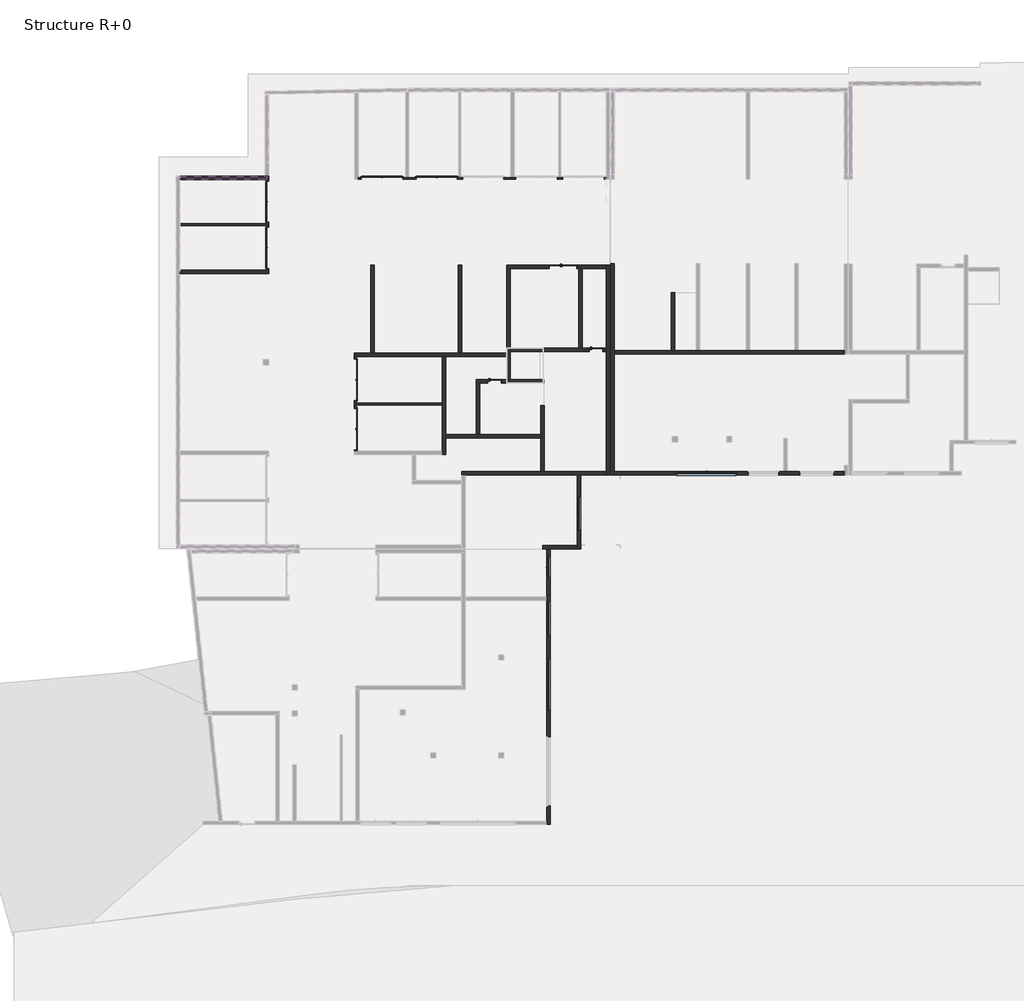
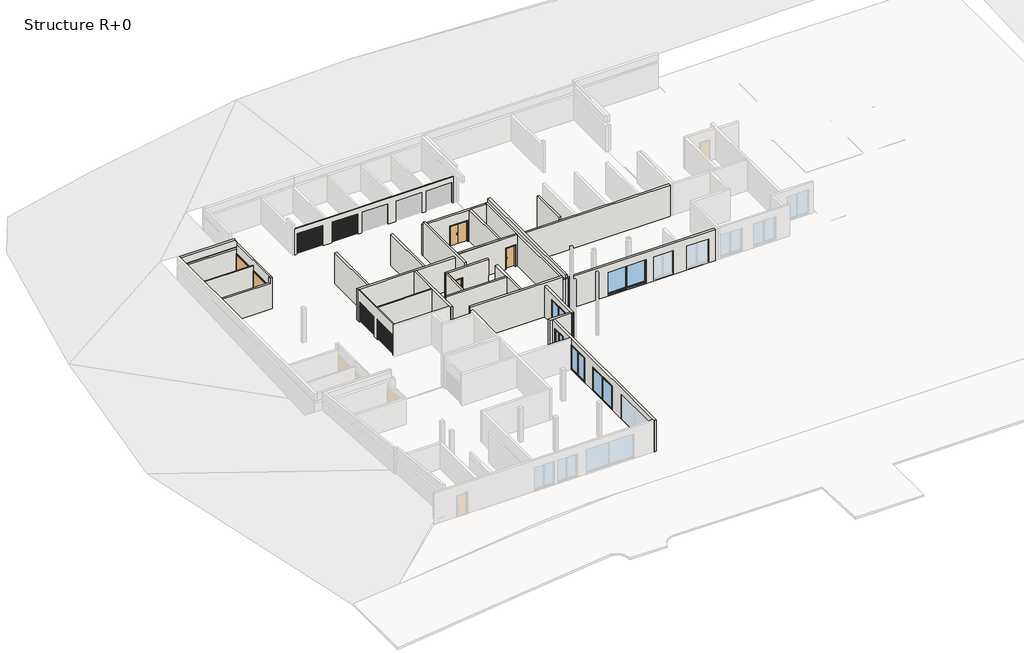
# One storey, part 2 of 5: 29 walls, 9 doors, 5 windows.
"""IFC4 building model written with IfcOpenShell, lengths in millimetres."""

from ifc_helpers import new_model, si_unit, frame, origin, origin_with_axes, place, context, project, spatial, polyline, outline, extrude, faceted_brep, transform, mapped, element, save
from components import door_2_4m_x_2m_ca442cef, double_r_1_63m_x_2_04m_b2d207b5, int_simple_pp_0_83m_x_2_04m_d9e52805, window_1_20m_x_2_35_m_5574f566, window_2_00m_x_2_35m_2ed9f70e, window_3_00m_x_2_25m_97a37025, window_3_50m_x_2_25m_79f3c7aa

model = new_model("IFC4")

# Units and contexts
model_context = context("Model", 3, world=origin())
ifc_project = project(units=[si_unit("LENGTHUNIT", "METRE", prefix="MILLI")], contexts=[model_context])

# Site, building, storey
site = spatial("IfcSite", under=ifc_project)
building = spatial("IfcBuilding", under=site)
storey = spatial("IfcBuildingStorey", under=building, Name="Structure R+0", Elevation=0.0)

# Doors
placement = place(None, origin())
door_2_4m_x_2m_shape = door_2_4m_x_2m_ca442cef(model_context)
element("IfcDoor", 1, ObjectType="Garage basculante : 2.4m x 2m", at=placement, inside=storey, context=model_context, shape_type="MappedRepresentation", body=[
    mapped(door_2_4m_x_2m_shape, transform((13621.19903, 31548.8556304, 0.0), x_axis=(-1.0, 0.0, 0.0), y_axis=(0.0, -1.0, 0.0), z_axis=(0.0, 0.0, 1.0))),
])
element("IfcDoor", 2, ObjectType="Garage basculante : 2.4m x 2m", at=placement, inside=storey, context=model_context, shape_type="MappedRepresentation", body=[
    mapped(door_2_4m_x_2m_shape, transform((10402.5131269, 31548.8556304, 0.0), x_axis=(-1.0, 0.0, 0.0), y_axis=(0.0, -1.0, 0.0), z_axis=(0.0, 0.0, 1.0))),
])
element("IfcDoor", 3, ObjectType="Garage basculante : 2.4m x 2m", at=placement, inside=storey, context=model_context, shape_type="MappedRepresentation", body=[
    mapped(door_2_4m_x_2m_shape, transform((4050.4601593, 30513.092309, 0.0), x_axis=(0.0, -1.0, 0.0), y_axis=(1.0, 0.0, 0.0), z_axis=(0.0, 0.0, 1.0))),
])
element("IfcDoor", 4, ObjectType="Garage basculante : 2.4m x 2m", at=placement, inside=storey, context=model_context, shape_type="MappedRepresentation", body=[
    mapped(door_2_4m_x_2m_shape, transform((4050.4601593, 27803.092309, 0.0), x_axis=(0.0, -1.0, 0.0), y_axis=(1.0, 0.0, 0.0), z_axis=(0.0, 0.0, 1.0))),
])
element("IfcDoor", 5, ObjectType="Garage basculante : 2.4m x 2m", at=placement, inside=storey, context=model_context, shape_type="MappedRepresentation", body=[
    mapped(door_2_4m_x_2m_shape, transform((8507.8778155, 20067.8584771, 0.0), x_axis=(0.0, 1.0, 0.0), y_axis=(-1.0, 0.0, 0.0), z_axis=(0.0, 0.0, 1.0))),
])
element("IfcDoor", 6, ObjectType="Garage basculante : 2.4m x 2m", at=placement, inside=storey, context=model_context, shape_type="MappedRepresentation", body=[
    mapped(door_2_4m_x_2m_shape, transform((8507.8778155, 17164.6332906, 0.0), x_axis=(0.0, 1.0, 0.0), y_axis=(-1.0, 0.0, 0.0), z_axis=(0.0, 0.0, 1.0))),
])
double_r_1_63m_x_2_04m_shape = double_r_1_63m_x_2_04m_b2d207b5(model_context)
element("IfcDoor", 7, ObjectType="Double (R) : 1.63m x 2.04m", at=placement, inside=storey, context=model_context, shape_type="MappedRepresentation", body=[
    mapped(double_r_1_63m_x_2_04m_shape, transform((21063.9631975, 26687.8872551, 0.0), x_axis=(-1.0, 0.0, 0.0), y_axis=(0.0, -1.0, 0.0), z_axis=(0.0, 0.0, 1.0))),
])
int_simple_pp_0_83m_x_2_04m_shape = int_simple_pp_0_83m_x_2_04m_d9e52805(model_context)
element("IfcDoor", 8, ObjectType="Int. Simple : PP (0.83m x 2.04m)", at=placement, inside=storey, context=model_context, shape_type="MappedRepresentation", body=[
    mapped(int_simple_pp_0_83m_x_2_04m_shape, transform((23038.2655761, 21816.9971343, 0.0), x_axis=(1.0, 0.0, 0.0), y_axis=(0.0, 1.0, 0.0), z_axis=(0.0, 0.0, 1.0))),
])
element("IfcDoor", 9, ObjectType="Int. Simple : PP (0.83m x 2.04m)", at=placement, inside=storey, context=model_context, shape_type="MappedRepresentation", body=[
    mapped(int_simple_pp_0_83m_x_2_04m_shape, transform((17080.0880762, 19964.656124, 0.0), x_axis=(1.0, 0.0, 0.0), y_axis=(0.0, 1.0, 0.0), z_axis=(0.0, 0.0, 1.0))),
])

# Walls
element("IfcWall", 10, ObjectType="Voile BA 20 + etancheite 1 + 2 enduit", at=placement, inside=storey, context=model_context, shape_type="Brep", body=[
    faceted_brep([(-1473.0020232, 31818.092309, 2710.0), (3656.9078335, 31818.092309, 2710.0), (3656.9078335, 31818.092309, 2720.0), (3656.9078335, 31818.092309, 3230.0), (3536.9058449, 31818.092309, 3230.0), (3536.9058449, 31818.092309, 3320.0), (3536.9058449, 31818.092309, 3410.0), (-1473.0020232, 31818.092309, 3410.0), (-1473.0020232, 32028.092309, 2710.0), (-1473.0020232, 32028.092309, 3410.0), (3536.9058449, 32028.092309, 3410.0), (3536.9058449, 32028.092309, 3320.0), (3536.9058449, 32028.092309, 3230.0), (3656.9078335, 32028.092309, 3230.0), (3656.9078335, 32028.092309, 2720.0), (3656.9078335, 32028.092309, 2710.0)], [[[0, 1, 2, 3, 4, 5, 6, 7]], [[8, 9, 10, 11, 12, 13, 14, 15]], [[1, 0, 8, 15]], [[7, 6, 10, 9]], [[0, 7, 9, 8]], [[3, 2, 1, 15, 14, 13]], [[6, 5, 4, 12, 11, 10]], [[12, 4, 3, 13]]]),
])
element("IfcWall", 11, ObjectType="Ext. Voile BA 20", at=placement, inside=storey, context=model_context, shape_type="Brep", body=[
    faceted_brep([(23603.2655761, 26787.8872551, 0.0), (23603.2655761, 26587.8872551, 0.0), (23603.2655761, 21916.9971343, 0.0), (23603.2655761, 21716.9971343, 0.0), (23603.2655761, 14657.8960617, 0.0), (23603.2655761, 14457.8960617, 0.0), (23603.2655761, 14457.8960617, 3030.0), (23603.2655761, 14497.950891, 3030.0), (23603.2655761, 21716.9971343, 3030.0), (23603.2655761, 21916.9971343, 3030.0), (23603.2655761, 26587.8872551, 3030.0), (23603.2655761, 26787.8872551, 3030.0), (23803.2655761, 26787.8872551, 0.0), (23803.2655761, 26787.8872551, 3030.0), (23803.2655761, 26687.8463688, 3030.0), (23803.2655761, 14497.950891, 3030.0), (23803.2655761, 14457.8960617, 3030.0), (23803.2655761, 14457.8960617, 0.0)], [[[0, 1, 2, 3, 4, 5, 6, 7, 8, 9, 10, 11]], [[12, 13, 14, 15, 16, 17]], [[5, 4, 3, 2, 1, 0, 12, 17]], [[6, 5, 17, 16]], [[0, 11, 13, 12]], [[7, 6, 16, 15]], [[11, 10, 9, 8, 7, 15, 14, 13]]]),
])
element("IfcWall", 12, ObjectType="Ext. Voile BA 20", at=placement, inside=storey, context=model_context, shape_type="Brep", body=[
    faceted_brep([(21903.2655761, 14457.8960617, 0.0), (21903.2655761, 10305.4117008, 0.0), (21903.2655761, 10105.4117008, 0.0), (21903.2655761, 10105.4117008, 3030.0), (21903.2655761, 10305.4117008, 3030.0), (21903.2655761, 14457.8960617, 3030.0), (21903.2655761, 11155.4117008, 35.0), (21903.2655761, 13255.4117008, 35.0), (21903.2655761, 13255.4117008, 2435.0), (21903.2655761, 11155.4117008, 2435.0), (22103.2655761, 14457.8960617, 0.0), (22103.2655761, 14457.8960617, 3030.0), (22103.2655761, 10105.4117008, 3030.0), (22103.2655761, 10105.4117008, 0.0), (22103.2655761, 13205.4117008, 2385.0), (22103.2655761, 13205.4117008, 22.3874918), (22103.2655761, 11205.4117008, 22.3874918), (22103.2655761, 11205.4117008, 2385.0), (21983.2655761, 13205.4117008, 35.0), (22003.2655761, 13205.4117008, 2385.0), (22003.2655761, 13205.4117008, 35.0), (21983.2655761, 11205.4117008, 35.0), (22003.2655761, 11205.4117008, 35.0), (22003.2655761, 11205.4117008, 2385.0), (22003.2655761, 13215.4117008, 35.0), (21953.2655761, 13215.4117008, 35.0), (21953.2655761, 13255.4117008, 35.0), (21953.2655761, 11155.4117008, 35.0), (21953.2655761, 11195.4117008, 35.0), (22003.2655761, 11195.4117008, 35.0), (21953.2655761, 13255.4117008, 2435.0), (21953.2655761, 13215.4117008, 2395.0), (21953.2655761, 11195.4117008, 2395.0), (21953.2655761, 11155.4117008, 2435.0), (22003.2655761, 13215.4117008, 2395.0), (22003.2655761, 11195.4117008, 2395.0)], [[[0, 1, 2, 3, 4, 5], [6, 7, 8, 9]], [[10, 11, 12, 13], [14, 15, 16, 17]], [[2, 1, 0, 10, 13]], [[0, 5, 11, 10]], [[3, 2, 13, 12]], [[5, 4, 3, 12, 11]], [[18, 15, 14, 19, 20]], [[16, 21, 22, 23, 17]], [[18, 21, 16, 15]], [[14, 17, 23, 19]], [[21, 18, 20, 24, 25, 26, 7, 6, 27, 28, 29, 22]], [[7, 26, 30, 8]], [[26, 25, 31, 32, 28, 27, 33, 30]], [[25, 24, 34, 31]], [[24, 20, 19, 23, 22, 29, 35, 34]], [[8, 30, 33, 9]], [[32, 31, 34, 35]], [[33, 27, 6, 9]], [[28, 32, 35, 29]]]),
])
element("IfcWall", 13, ObjectType="Ext. Voile BA 20", at=placement, inside=storey, context=model_context, shape_type="SweptSolid", body=[
    extrude(outline(polyline([(19872.9268439, 10305.4117008), (21903.2655761, 10305.4117008), (21903.2655761, 10105.4117008), (19872.9268439, 10105.4117008), (19872.9268439, 10305.4117008)])), origin_with_axes(), (0.0, 0.0, 1.0), 3030.0),
])
element("IfcWall", 14, ObjectType="Ext. Voile BA 20", at=placement, inside=storey, context=model_context, shape_type="Brep", body=[
    faceted_brep([(20115.920738, 10065.4658935, 0.0), (20115.920738, 7268.553593, 0.0), (20115.920738, 7068.553593, 0.0), (20115.920738, -5905.1620119, 0.0), (20115.920738, -6105.1620119, 0.0), (20115.920738, -6105.1620119, 3030.0), (20115.920738, -5905.1620119, 3030.0), (20115.920738, 7068.553593, 3030.0), (20115.920738, 7268.553593, 3030.0), (20115.920738, 10065.4658935, 3030.0), (20115.920738, -5060.6481556, 35.0), (20115.920738, -910.6481556, 35.0), (20115.920738, -910.6481556, 2435.0), (20115.920738, -5060.6481556, 2435.0), (20115.920738, 578.553593, 35.0), (20115.920738, 3678.553593, 35.0), (20115.920738, 3678.553593, 2335.0), (20115.920738, 578.553593, 2335.0), (20115.920738, 4958.553593, 35.0), (20115.920738, 7058.553593, 35.0), (20115.920738, 7058.553593, 2435.0), (20115.920738, 4958.553593, 2435.0), (20115.920738, 8375.4658935, 35.0), (20115.920738, 9675.4658935, 35.0), (20115.920738, 9675.4658935, 2435.0), (20115.920738, 8375.4658935, 2435.0), (20315.920738, 10065.4658935, 0.0), (20315.920738, 10065.4658935, 3030.0), (20315.920738, -6105.1620119, 3030.0), (20315.920738, -6105.1620119, 0.0), (20315.920738, -960.6481556, 2385.0), (20315.920738, -960.6481556, 22.3874918), (20315.920738, -5010.6481556, 22.3874918), (20315.920738, -5010.6481556, 2385.0), (20315.920738, 3628.553593, 2285.0), (20315.920738, 3628.553593, 22.3874918), (20315.920738, 628.553593, 22.3874918), (20315.920738, 628.553593, 2285.0), (20315.920738, 7008.553593, 2385.0), (20315.920738, 7008.553593, 22.3874918), (20315.920738, 5008.553593, 22.3874918), (20315.920738, 5008.553593, 2385.0), (20315.920738, 9625.4658935, 2385.0), (20315.920738, 9625.4658935, 22.3874918), (20315.920738, 8425.4658935, 22.3874918), (20315.920738, 8425.4658935, 2385.0), (20195.920738, -960.6481556, 35.0), (20215.920738, -960.6481556, 2385.0), (20215.920738, -960.6481556, 35.0), (20195.920738, -5010.6481556, 35.0), (20215.920738, -5010.6481556, 35.0), (20215.920738, -5010.6481556, 2385.0), (20215.920738, -950.6481556, 35.0), (20165.920738, -950.6481556, 35.0), (20165.920738, -910.6481556, 35.0), (20165.920738, -5060.6481556, 35.0), (20165.920738, -5020.6481556, 35.0), (20215.920738, -5020.6481556, 35.0), (20165.920738, -910.6481556, 2435.0), (20165.920738, -950.6481556, 2395.0), (20165.920738, -5020.6481556, 2395.0), (20165.920738, -5060.6481556, 2435.0), (20215.920738, -950.6481556, 2395.0), (20215.920738, -5020.6481556, 2395.0), (20195.920738, 3628.553593, 35.0), (20215.920738, 3628.553593, 2285.0), (20215.920738, 3628.553593, 35.0), (20195.920738, 628.553593, 35.0), (20215.920738, 628.553593, 35.0), (20215.920738, 628.553593, 2285.0), (20215.920738, 3638.553593, 35.0), (20165.920738, 3638.553593, 35.0), (20165.920738, 3678.553593, 35.0), (20165.920738, 578.553593, 35.0), (20165.920738, 618.553593, 35.0), (20215.920738, 618.553593, 35.0), (20165.920738, 3678.553593, 2335.0), (20165.920738, 3638.553593, 2295.0), (20165.920738, 618.553593, 2295.0), (20165.920738, 578.553593, 2335.0), (20215.920738, 3638.553593, 2295.0), (20215.920738, 618.553593, 2295.0), (20195.920738, 7008.553593, 35.0), (20215.920738, 7008.553593, 2385.0), (20215.920738, 7008.553593, 35.0), (20195.920738, 5008.553593, 35.0), (20215.920738, 5008.553593, 35.0), (20215.920738, 5008.553593, 2385.0), (20215.920738, 7018.553593, 35.0), (20165.920738, 7018.553593, 35.0), (20165.920738, 7058.553593, 35.0), (20165.920738, 4958.553593, 35.0), (20165.920738, 4998.553593, 35.0), (20215.920738, 4998.553593, 35.0), (20165.920738, 7058.553593, 2435.0), (20165.920738, 7018.553593, 2395.0), (20165.920738, 4998.553593, 2395.0), (20165.920738, 4958.553593, 2435.0), (20215.920738, 7018.553593, 2395.0), (20215.920738, 4998.553593, 2395.0), (20195.920738, 9625.4658935, 35.0), (20215.920738, 9625.4658935, 2385.0), (20215.920738, 9625.4658935, 35.0), (20195.920738, 8425.4658935, 35.0), (20215.920738, 8425.4658935, 35.0), (20215.920738, 8425.4658935, 2385.0), (20215.920738, 9635.4658935, 35.0), (20165.920738, 9635.4658935, 35.0), (20165.920738, 9675.4658935, 35.0), (20165.920738, 8375.4658935, 35.0), (20165.920738, 8415.4658935, 35.0), (20215.920738, 8415.4658935, 35.0), (20165.920738, 9675.4658935, 2435.0), (20165.920738, 9635.4658935, 2395.0), (20165.920738, 8415.4658935, 2395.0), (20165.920738, 8375.4658935, 2435.0), (20215.920738, 9635.4658935, 2395.0), (20215.920738, 8415.4658935, 2395.0)], [[[0, 1, 2, 3, 4, 5, 6, 7, 8, 9], [10, 11, 12, 13], [14, 15, 16, 17], [18, 19, 20, 21], [22, 23, 24, 25]], [[26, 27, 28, 29], [30, 31, 32, 33], [34, 35, 36, 37], [38, 39, 40, 41], [42, 43, 44, 45]], [[4, 3, 2, 1, 0, 26, 29]], [[9, 8, 7, 6, 5, 28, 27]], [[0, 9, 27, 26]], [[5, 4, 29, 28]], [[46, 31, 30, 47, 48]], [[32, 49, 50, 51, 33]], [[46, 49, 32, 31]], [[30, 33, 51, 47]], [[49, 46, 48, 52, 53, 54, 11, 10, 55, 56, 57, 50]], [[11, 54, 58, 12]], [[54, 53, 59, 60, 56, 55, 61, 58]], [[53, 52, 62, 59]], [[52, 48, 47, 51, 50, 57, 63, 62]], [[12, 58, 61, 13]], [[60, 59, 62, 63]], [[61, 55, 10, 13]], [[56, 60, 63, 57]], [[64, 35, 34, 65, 66]], [[36, 67, 68, 69, 37]], [[64, 67, 36, 35]], [[34, 37, 69, 65]], [[67, 64, 66, 70, 71, 72, 15, 14, 73, 74, 75, 68]], [[15, 72, 76, 16]], [[72, 71, 77, 78, 74, 73, 79, 76]], [[71, 70, 80, 77]], [[70, 66, 65, 69, 68, 75, 81, 80]], [[16, 76, 79, 17]], [[78, 77, 80, 81]], [[79, 73, 14, 17]], [[74, 78, 81, 75]], [[82, 39, 38, 83, 84]], [[40, 85, 86, 87, 41]], [[82, 85, 40, 39]], [[38, 41, 87, 83]], [[85, 82, 84, 88, 89, 90, 19, 18, 91, 92, 93, 86]], [[19, 90, 94, 20]], [[90, 89, 95, 96, 92, 91, 97, 94]], [[89, 88, 98, 95]], [[88, 84, 83, 87, 86, 93, 99, 98]], [[20, 94, 97, 21]], [[96, 95, 98, 99]], [[97, 91, 18, 21]], [[92, 96, 99, 93]], [[100, 43, 42, 101, 102]], [[44, 103, 104, 105, 45]], [[100, 103, 44, 43]], [[42, 45, 105, 101]], [[103, 100, 102, 106, 107, 108, 23, 22, 109, 110, 111, 104]], [[23, 108, 112, 24]], [[108, 107, 113, 114, 110, 109, 115, 112]], [[107, 106, 116, 113]], [[106, 102, 101, 105, 104, 111, 117, 116]], [[24, 112, 115, 25]], [[114, 113, 116, 117]], [[115, 109, 22, 25]], [[110, 114, 117, 111]]]),
])
element("IfcWall", 15, ObjectType="Ext. Voile BA 20", at=placement, inside=storey, context=model_context, shape_type="Brep", body=[
    faceted_brep([(-1483.0020232, 31828.092309, 0.0), (3656.9078335, 31828.092309, 0.0), (3756.9078335, 31828.092309, 0.0), (3756.9078335, 31828.092309, 2510.0), (-1483.0020232, 31828.092309, 2510.0), (-1483.0020232, 32028.092309, 0.0), (-1483.0020232, 32028.092309, 2510.0), (3556.9078335, 32028.092309, 2510.0), (3756.9078335, 32028.092309, 2510.0), (3756.9078335, 32028.092309, 0.0), (3556.9078335, 32028.092309, 0.0)], [[[0, 1, 2, 3, 4]], [[5, 6, 7, 8, 9, 10]], [[0, 4, 6, 5]], [[3, 2, 9, 8]], [[2, 1, 0, 5, 10, 9]], [[4, 3, 8, 7, 6]]]),
])
element("IfcWall", 16, ObjectType="Ext. Voile BA 20", at=placement, inside=storey, context=model_context, shape_type="SweptSolid", body=[
    extrude(outline(polyline([(15093.9907355, 26785.8625842), (15093.9907355, 21625.8625842), (14893.9907355, 21625.8625842), (14893.9907355, 26785.8625842), (15093.9907355, 26785.8625842)])), origin_with_axes(), (0.0, 0.0, 1.0), 3030.0),
])
element("IfcWall", 17, ObjectType="Ext. Voile BA 20", at=placement, inside=storey, context=model_context, shape_type="SweptSolid", body=[
    extrude(outline(polyline([(9958.0983694, 26785.8625842), (9958.0983694, 21625.8625842), (9758.0983694, 21625.8625842), (9758.0983694, 26785.8625842), (9958.0983694, 26785.8625842)])), origin_with_axes(), (0.0, 0.0, 1.0), 3030.0),
])
element("IfcWall", 18, ObjectType="Ext. Voile BA 20 + 2 enduit", at=placement, inside=storey, context=model_context, shape_type="Brep", body=[
    faceted_brep([(37608.3960659, 14642.6998135, 0.0), (24079.3002373, 14642.6998135, 0.0), (24079.3002373, 14642.6998135, 3030.0), (37608.3960659, 14642.6998135, 3030.0), (34941.8618866, 14642.6998135, 70.0), (37041.8618866, 14642.6998135, 70.0), (37041.8618866, 14642.6998135, 2370.0), (34941.8618866, 14642.6998135, 2370.0), (31897.3966699, 14642.6998135, 70.0), (33797.3966699, 14642.6998135, 70.0), (33797.3966699, 14642.6998135, 2370.0), (31897.3966699, 14642.6998135, 2370.0), (27696.9796965, 14642.6998135, 70.0), (31296.9796965, 14642.6998135, 70.0), (31296.9796965, 14642.6998135, 2370.0), (27696.9796965, 14642.6998135, 2370.0), (37608.3960659, 14442.6998135, 0.0), (37608.3960659, 14442.6998135, 3030.0), (24079.3002373, 14442.6998135, 3030.0), (24079.3002373, 14442.6998135, 0.0), (34991.8618866, 14442.6998135, 57.3874918), (34991.8618866, 14442.6998135, 2320.0), (36991.8618866, 14442.6998135, 2320.0), (36991.8618866, 14442.6998135, 57.3874918), (31947.3966699, 14442.6998135, 57.3874918), (31947.3966699, 14442.6998135, 2320.0), (33747.3966699, 14442.6998135, 2320.0), (33747.3966699, 14442.6998135, 57.3874918), (27746.9796965, 14442.6998135, 57.3874918), (27746.9796965, 14442.6998135, 2320.0), (31246.9796965, 14442.6998135, 2320.0), (31246.9796965, 14442.6998135, 57.3874918), (34991.8618866, 14562.6998135, 70.0), (34991.8618866, 14542.6998135, 70.0), (34991.8618866, 14542.6998135, 2320.0), (36991.8618866, 14542.6998135, 2320.0), (36991.8618866, 14542.6998135, 70.0), (36991.8618866, 14562.6998135, 70.0), (37001.8618866, 14542.6998135, 70.0), (37001.8618866, 14592.6998135, 70.0), (37041.8618866, 14592.6998135, 70.0), (34941.8618866, 14592.6998135, 70.0), (34981.8618866, 14592.6998135, 70.0), (34981.8618866, 14542.6998135, 70.0), (34941.8618866, 14592.6998135, 2370.0), (37041.8618866, 14592.6998135, 2370.0), (37001.8618866, 14592.6998135, 2330.0), (34981.8618866, 14592.6998135, 2330.0), (34981.8618866, 14542.6998135, 2330.0), (37001.8618866, 14542.6998135, 2330.0), (31947.3966699, 14562.6998135, 70.0), (31947.3966699, 14542.6998135, 70.0), (31947.3966699, 14542.6998135, 2320.0), (33747.3966699, 14542.6998135, 2320.0), (33747.3966699, 14542.6998135, 70.0), (33747.3966699, 14562.6998135, 70.0), (33757.3966699, 14542.6998135, 70.0), (33757.3966699, 14592.6998135, 70.0), (33797.3966699, 14592.6998135, 70.0), (31897.3966699, 14592.6998135, 70.0), (31937.3966699, 14592.6998135, 70.0), (31937.3966699, 14542.6998135, 70.0), (31897.3966699, 14592.6998135, 2370.0), (33797.3966699, 14592.6998135, 2370.0), (33757.3966699, 14592.6998135, 2330.0), (31937.3966699, 14592.6998135, 2330.0), (31937.3966699, 14542.6998135, 2330.0), (33757.3966699, 14542.6998135, 2330.0), (27746.9796965, 14562.6998135, 70.0), (27746.9796965, 14542.6998135, 70.0), (27746.9796965, 14542.6998135, 2320.0), (31246.9796965, 14542.6998135, 2320.0), (31246.9796965, 14542.6998135, 70.0), (31246.9796965, 14562.6998135, 70.0), (31256.9796965, 14542.6998135, 70.0), (31256.9796965, 14592.6998135, 70.0), (31296.9796965, 14592.6998135, 70.0), (27696.9796965, 14592.6998135, 70.0), (27736.9796965, 14592.6998135, 70.0), (27736.9796965, 14542.6998135, 70.0), (27696.9796965, 14592.6998135, 2370.0), (31296.9796965, 14592.6998135, 2370.0), (31256.9796965, 14592.6998135, 2330.0), (27736.9796965, 14592.6998135, 2330.0), (27736.9796965, 14542.6998135, 2330.0), (31256.9796965, 14542.6998135, 2330.0)], [[[0, 1, 2, 3], [4, 5, 6, 7], [8, 9, 10, 11], [12, 13, 14, 15]], [[16, 17, 18, 19], [20, 21, 22, 23], [24, 25, 26, 27], [28, 29, 30, 31]], [[1, 0, 16, 19]], [[3, 2, 18, 17]], [[2, 1, 19, 18]], [[0, 3, 17, 16]], [[32, 33, 34, 21, 20]], [[23, 22, 35, 36, 37]], [[32, 20, 23, 37]], [[21, 34, 35, 22]], [[37, 36, 38, 39, 40, 5, 4, 41, 42, 43, 33, 32]], [[4, 7, 44, 41]], [[41, 44, 45, 40, 39, 46, 47, 42]], [[42, 47, 48, 43]], [[43, 48, 49, 38, 36, 35, 34, 33]], [[7, 6, 45, 44]], [[46, 49, 48, 47]], [[45, 6, 5, 40]], [[39, 38, 49, 46]], [[50, 51, 52, 25, 24]], [[27, 26, 53, 54, 55]], [[50, 24, 27, 55]], [[25, 52, 53, 26]], [[55, 54, 56, 57, 58, 9, 8, 59, 60, 61, 51, 50]], [[8, 11, 62, 59]], [[59, 62, 63, 58, 57, 64, 65, 60]], [[60, 65, 66, 61]], [[61, 66, 67, 56, 54, 53, 52, 51]], [[11, 10, 63, 62]], [[64, 67, 66, 65]], [[63, 10, 9, 58]], [[57, 56, 67, 64]], [[68, 69, 70, 29, 28]], [[31, 30, 71, 72, 73]], [[68, 28, 31, 73]], [[29, 70, 71, 30]], [[73, 72, 74, 75, 76, 13, 12, 77, 78, 79, 69, 68]], [[12, 15, 80, 77]], [[77, 80, 81, 76, 75, 82, 83, 78]], [[78, 83, 84, 79]], [[79, 84, 85, 74, 72, 71, 70, 69]], [[15, 14, 81, 80]], [[82, 85, 84, 83]], [[81, 14, 13, 76]], [[75, 74, 85, 82]]]),
])
element("IfcWall", 19, ObjectType="Int. Parpaing 100 mm", at=placement, inside=storey, context=model_context, shape_type="Brep", body=[
    faceted_brep([(23603.2655761, 31942.4079561, 2510.0), (23603.2655761, 31942.4079561, 0.0), (23476.2848609, 31942.4079561, 0.0), (23476.2848609, 31942.4079561, 2015.0), (21046.2848609, 31942.4079561, 2015.0), (21046.2848609, 31942.4079561, 0.0), (20919.3041456, 31942.4079561, 0.0), (20819.3041456, 31942.4079561, 0.0), (20724.2795115, 31942.4079561, 0.0), (20724.2795115, 31942.4079561, 2015.0), (18294.2795115, 31942.4079561, 2015.0), (18294.2795115, 31942.4079561, 0.0), (18199.2548774, 31942.4079561, 0.0), (17999.2548774, 31942.4079561, 0.0), (17591.19903, 31942.4079561, 0.0), (17591.19903, 31942.4079561, 2015.0), (15161.19903, 31942.4079561, 2015.0), (15161.19903, 31942.4079561, 0.0), (15036.19903, 31942.4079561, 0.0), (14936.19903, 31942.4079561, 0.0), (14851.19903, 31942.4079561, 0.0), (14851.19903, 31942.4079561, 2015.0), (12421.19903, 31942.4079561, 2015.0), (12421.19903, 31942.4079561, 0.0), (12003.2321127, 31942.4079561, 0.0), (11803.2321127, 31942.4079561, 0.0), (11632.5131269, 31942.4079561, 0.0), (11632.5131269, 31942.4079561, 2015.0), (9202.5131269, 31942.4079561, 2015.0), (9202.5131269, 31942.4079561, 0.0), (9017.5131269, 31942.4079561, 0.0), (9017.5131269, 31942.4079561, 2510.0), (11803.2321127, 31942.4079561, 2510.0), (11991.9058449, 31942.4079561, 2510.0), (12003.2321127, 31942.4079561, 2510.0), (14936.19903, 31942.4079561, 2510.0), (15036.19903, 31942.4079561, 2510.0), (17999.2548774, 31942.4079561, 2510.0), (18199.2548774, 31942.4079561, 2510.0), (20819.3041456, 31942.4079561, 2510.0), (20919.3041456, 31942.4079561, 2510.0), (23603.2655761, 31842.4079561, 0.0), (23603.2655761, 31842.4079561, 2510.0), (11991.9058449, 31842.4079561, 2510.0), (9017.5131269, 31842.4079561, 2510.0), (9017.5131269, 31842.4079561, 0.0), (9202.5131269, 31842.4079561, 0.0), (9202.5131269, 31842.4079561, 2015.0), (11632.5131269, 31842.4079561, 2015.0), (11632.5131269, 31842.4079561, 0.0), (12421.19903, 31842.4079561, 0.0), (12421.19903, 31842.4079561, 2015.0), (14851.19903, 31842.4079561, 2015.0), (14851.19903, 31842.4079561, 0.0), (15161.19903, 31842.4079561, 0.0), (15161.19903, 31842.4079561, 2015.0), (17591.19903, 31842.4079561, 2015.0), (17591.19903, 31842.4079561, 0.0), (18294.2795115, 31842.4079561, 0.0), (18294.2795115, 31842.4079561, 2015.0), (20724.2795115, 31842.4079561, 2015.0), (20724.2795115, 31842.4079561, 0.0), (21046.2848609, 31842.4079561, 0.0), (21046.2848609, 31842.4079561, 2015.0), (23476.2848609, 31842.4079561, 2015.0), (23476.2848609, 31842.4079561, 0.0)], [[[0, 1, 2, 3, 4, 5, 6, 7, 8, 9, 10, 11, 12, 13, 14, 15, 16, 17, 18, 19, 20, 21, 22, 23, 24, 25, 26, 27, 28, 29, 30, 31, 32, 33, 34, 35, 36, 37, 38, 39, 40]], [[41, 42, 43, 44, 45, 46, 47, 48, 49, 50, 51, 52, 53, 54, 55, 56, 57, 58, 59, 60, 61, 62, 63, 64, 65]], [[1, 41, 65, 2]], [[5, 62, 61, 8, 7, 6]], [[11, 58, 57, 14, 13, 12]], [[17, 54, 53, 20, 19, 18]], [[23, 50, 49, 26, 25, 24]], [[45, 30, 29, 46]], [[1, 0, 42, 41]], [[63, 4, 3, 64]], [[64, 3, 2, 65]], [[4, 63, 62, 5]], [[59, 10, 9, 60]], [[60, 9, 8, 61]], [[10, 59, 58, 11]], [[55, 16, 15, 56]], [[56, 15, 14, 57]], [[16, 55, 54, 17]], [[51, 22, 21, 52]], [[52, 21, 20, 53]], [[22, 51, 50, 23]], [[31, 30, 45, 44]], [[47, 28, 27, 48]], [[48, 27, 26, 49]], [[28, 47, 46, 29]], [[31, 44, 43, 33, 32]], [[0, 40, 39, 38, 37, 36, 35, 34, 33, 43, 42]]]),
])
element("IfcWall", 20, ObjectType="Int. Parpaing 100 mm", at=placement, inside=storey, context=model_context, shape_type="SweptSolid", body=[
    extrude(outline(polyline([(0.0, -1483.0020232), (0.0, 3656.9078335), (2510.0, 3656.9078335), (2510.0, 3536.9058449), (2510.0, -1483.0020232), (0.0, -1483.0020232)])), frame((0.0, 29128.092309, 0.0), z_axis=(0.0, 1.0, 0.0), x_axis=(0.0, 0.0, 1.0)), (0.0, 0.0, 1.0), 100.0),
])
element("IfcWall", 21, ObjectType="Int. Parpaing 100 mm", at=placement, inside=storey, context=model_context, shape_type="Brep", body=[
    faceted_brep([(3656.9078335, 26508.0923089, 3000.0), (3656.9078335, 32028.092309, 3000.0), (3656.9078335, 32028.092309, 2710.0), (3656.9078335, 31828.092309, 2710.0), (3656.9078335, 31828.092309, 0.0), (3656.9078335, 31743.092309, 0.0), (3656.9078335, 31743.092309, 2015.0), (3656.9078335, 29313.092309, 2015.0), (3656.9078335, 29313.092309, 0.0), (3656.9078335, 29228.092309, 0.0), (3656.9078335, 29128.092309, 0.0), (3656.9078335, 29033.092309, 0.0), (3656.9078335, 29033.092309, 2015.0), (3656.9078335, 26603.092309, 2015.0), (3656.9078335, 26603.092309, 0.0), (3656.9078335, 26508.0923089, 0.0), (3756.9078335, 32028.092309, 3000.0), (3756.9078335, 26508.0923089, 3000.0), (3756.9078335, 26508.0923089, 0.0), (3756.9078335, 26603.092309, 0.0), (3756.9078335, 26603.092309, 2015.0), (3756.9078335, 29033.092309, 2015.0), (3756.9078335, 29033.092309, 0.0), (3756.9078335, 29313.092309, 0.0), (3756.9078335, 29313.092309, 2015.0), (3756.9078335, 31743.092309, 2015.0), (3756.9078335, 31743.092309, 0.0), (3756.9078335, 31828.092309, 0.0), (3756.9078335, 31828.092309, 2510.0), (3756.9078335, 31828.092309, 2710.0), (3756.9078335, 32028.092309, 2710.0)], [[[0, 1, 2, 3, 4, 5, 6, 7, 8, 9, 10, 11, 12, 13, 14, 15]], [[16, 17, 18, 19, 20, 21, 22, 23, 24, 25, 26, 27, 28, 29, 30]], [[4, 27, 26, 5]], [[18, 15, 14, 19]], [[8, 23, 22, 11, 10, 9]], [[1, 0, 17, 16]], [[0, 15, 18, 17]], [[24, 7, 6, 25]], [[25, 6, 5, 26]], [[7, 24, 23, 8]], [[20, 13, 12, 21]], [[21, 12, 11, 22]], [[13, 20, 19, 14]], [[30, 29, 3, 2]], [[27, 4, 3, 29, 28]], [[1, 16, 30, 2]]]),
])
element("IfcWall", 22, ObjectType="Int. Parpaing 100 mm", at=placement, inside=storey, context=model_context, shape_type="Brep", body=[
    faceted_brep([(8801.4301413, 15849.6332906, 3030.0), (8801.4301413, 21425.8625842, 3030.0), (8801.4301413, 21425.8625842, 0.0), (8801.4301413, 21267.8584771, 0.0), (8801.4301413, 21267.8584771, 2015.0), (8801.4301413, 18837.8584771, 2015.0), (8801.4301413, 18837.8584771, 0.0), (8801.4301413, 18364.6332906, 0.0), (8801.4301413, 18364.6332906, 2015.0), (8801.4301413, 15934.6332906, 2015.0), (8801.4301413, 15934.6332906, 0.0), (8801.4301413, 15849.6332906, 0.0), (8901.4301413, 21425.8625842, 3030.0), (8901.4301413, 15849.6332906, 3030.0), (8901.4301413, 15849.6332906, 0.0), (8901.4301413, 15934.6332906, 0.0), (8901.4301413, 15934.6332906, 2015.0), (8901.4301413, 18364.6332906, 2015.0), (8901.4301413, 18364.6332906, 0.0), (8901.4301413, 18579.8543699, 0.0), (8901.4301413, 18679.8543699, 0.0), (8901.4301413, 18837.8584771, 0.0), (8901.4301413, 18837.8584771, 2015.0), (8901.4301413, 21267.8584771, 2015.0), (8901.4301413, 21267.8584771, 0.0), (8901.4301413, 21425.8625842, 0.0)], [[[0, 1, 2, 3, 4, 5, 6, 7, 8, 9, 10, 11]], [[12, 13, 14, 15, 16, 17, 18, 19, 20, 21, 22, 23, 24, 25]], [[2, 25, 24, 3]], [[14, 11, 10, 15]], [[6, 21, 20, 19, 18, 7]], [[1, 0, 13, 12]], [[0, 11, 14, 13]], [[2, 1, 12, 25]], [[4, 23, 22, 5]], [[5, 22, 21, 6]], [[23, 4, 3, 24]], [[8, 17, 16, 9]], [[9, 16, 15, 10]], [[17, 8, 7, 18]]]),
])
element("IfcWall", 23, ObjectType="Int. Parpaing 100 mm", at=placement, inside=storey, context=model_context, shape_type="SweptSolid", body=[
    extrude(outline(polyline([(13964.9548931, 18579.8543699), (8901.4301413, 18579.8543699), (8901.4301413, 18679.8543699), (13964.9548931, 18679.8543699), (13964.9548931, 18579.8543699)])), origin_with_axes(), (0.0, 0.0, 1.0), 3000.0),
])
element("IfcWall", 24, ObjectType="Voile BA 20", at=placement, inside=storey, context=model_context, shape_type="Brep", body=[
    faceted_brep([(23603.2655761, 14657.8960617, 0.0), (19949.9321418, 14657.8960617, 0.0), (19749.9321418, 14657.8960617, 0.0), (15109.3203129, 14657.8960617, 0.0), (15109.3203129, 14657.8960617, 3320.0), (19749.9321418, 14657.8960617, 3320.0), (19949.9321418, 14657.8960617, 3320.0), (23603.2655761, 14657.8960617, 3320.0), (23603.2655761, 14457.8960617, 0.0), (23603.2655761, 14457.8960617, 3030.0), (23603.2655761, 14457.8960617, 3320.0), (15109.3203129, 14457.8960617, 3320.0), (15109.3203129, 14457.8960617, 3030.0), (15109.3203129, 14457.8960617, 0.0), (15309.3203129, 14457.8960617, 0.0), (21903.2655761, 14457.8960617, 0.0), (22103.2655761, 14457.8960617, 0.0)], [[[0, 1, 2, 3, 4, 5, 6, 7]], [[8, 9, 10, 11, 12, 13, 14, 15, 16]], [[3, 2, 1, 0, 8, 16, 15, 14, 13]], [[7, 6, 5, 4, 11, 10]], [[0, 7, 10, 9, 8]], [[4, 3, 13, 12, 11]]]),
])
element("IfcWall", 25, ObjectType="Voile BA 20", at=placement, inside=storey, context=model_context, shape_type="Brep", body=[
    faceted_brep([(37608.398272, 21772.7235205, 0.0), (34893.7772107, 21772.7235205, 0.0), (34693.7772107, 21772.7235205, 0.0), (32028.7712439, 21772.7235205, 0.0), (31828.7712439, 21772.7235205, 0.0), (29098.2960148, 21772.7235205, 0.0), (28898.2960148, 21772.7235205, 0.0), (27626.926938, 21772.7235205, 0.0), (27426.926938, 21772.7235205, 0.0), (24079.3002373, 21772.7235205, 0.0), (24079.3002373, 21772.7235205, 3030.0), (28898.2960148, 21772.7235205, 3030.0), (29098.2960148, 21772.7235205, 3030.0), (31828.7712439, 21772.7235205, 3030.0), (32028.7712439, 21772.7235205, 3030.0), (34693.7772107, 21772.7235205, 3030.0), (34893.7772107, 21772.7235205, 3030.0), (37608.398272, 21772.7235205, 3030.0), (37608.398272, 21572.7235205, 0.0), (37608.398272, 21572.7235205, 3030.0), (24079.3002373, 21572.7235205, 3030.0), (24079.3002373, 21572.7235205, 0.0)], [[[0, 1, 2, 3, 4, 5, 6, 7, 8, 9, 10, 11, 12, 13, 14, 15, 16, 17]], [[18, 19, 20, 21]], [[9, 8, 7, 6, 5, 4, 3, 2, 1, 0, 18, 21]], [[0, 17, 19, 18]], [[10, 9, 21, 20]], [[17, 16, 15, 14, 13, 12, 11, 10, 20, 19]]]),
])
element("IfcWall", 26, ObjectType="Voile BA 20", at=placement, inside=storey, context=model_context, shape_type="SweptSolid", body=[
    extrude(outline(polyline([(27626.926938, 25172.7235205), (27626.926938, 21772.7235205), (27426.926938, 21772.7235205), (27426.926938, 25172.7235205), (27626.926938, 25172.7235205)])), origin_with_axes(), (0.0, 0.0, 1.0), 3320.0),
])
element("IfcWall", 27, ObjectType="Voile BA 20", at=placement, inside=storey, context=model_context, shape_type="Brep", body=[
    faceted_brep([(23879.3002373, 26872.7235205, 0.0), (23879.3002373, 14442.6998135, 0.0), (23879.3002373, 14442.6998135, 3030.0), (23879.3002373, 14597.8380864, 3030.0), (23879.3002373, 14597.8380864, 3320.0), (23879.3002373, 26872.7235205, 3320.0), (24079.3002373, 26872.7235205, 0.0), (24079.3002373, 26872.7235205, 3320.0), (24079.3002373, 14597.8380864, 3320.0), (24079.3002373, 14597.8380864, 3030.0), (24079.3002373, 14442.6998135, 3030.0), (24079.3002373, 14442.6998135, 0.0), (24079.3002373, 21572.7235205, 0.0), (24079.3002373, 21772.7235205, 0.0)], [[[0, 1, 2, 3, 4, 5]], [[6, 7, 8, 9, 10, 11, 12, 13]], [[1, 0, 6, 13, 12, 11]], [[5, 4, 8, 7]], [[0, 5, 7, 6]], [[9, 3, 2, 10]], [[2, 1, 11, 10]], [[3, 9, 8, 4]]]),
])
element("IfcWall", 28, ObjectType="Voile BA 20", at=placement, inside=storey, context=model_context, shape_type="Brep", body=[
    faceted_brep([(23603.2655761, 21916.9971343, 3030.0), (23603.2655761, 21916.9971343, 0.0), (23453.2655761, 21916.9971343, 0.0), (23453.2655761, 21916.9971343, 2075.0), (22553.2655761, 21916.9971343, 2075.0), (22553.2655761, 21916.9971343, 0.0), (22195.0784755, 21916.9971343, 0.0), (21995.0784755, 21916.9971343, 0.0), (17965.0880762, 21916.9971343, 0.0), (17965.0880762, 21916.9971343, 3030.0), (21995.0784755, 21916.9971343, 3030.0), (22195.0784755, 21916.9971343, 3030.0), (23603.2655761, 21716.9971343, 3030.0), (17965.0880762, 21716.9971343, 3030.0), (17965.0880762, 21716.9971343, 0.0), (22553.2655761, 21716.9971343, 0.0), (22553.2655761, 21716.9971343, 2075.0), (23453.2655761, 21716.9971343, 2075.0), (23453.2655761, 21716.9971343, 0.0), (23603.2655761, 21716.9971343, 0.0), (23603.2655761, 21756.9971496, 3030.0), (17965.0880762, 21756.9971496, 3030.0), (19809.8425091, 21756.9971496, 3030.0)], [[[0, 1, 2, 3, 4, 5, 6, 7, 8, 9, 10, 11]], [[12, 13, 14, 15, 16, 17, 18, 19]], [[1, 19, 18, 2]], [[14, 8, 7, 6, 5, 15]], [[1, 0, 20, 12, 19]], [[9, 8, 14, 13, 21]], [[0, 11, 10, 9, 21, 22, 20]], [[17, 3, 2, 18]], [[3, 17, 16, 4]], [[4, 16, 15, 5]], [[13, 12, 20, 22, 21]]]),
])
element("IfcWall", 29, ObjectType="Voile BA 20", at=placement, inside=storey, context=model_context, shape_type="Brep", body=[
    faceted_brep([(23603.2655761, 26787.8872551, 3030.0), (23603.2655761, 26787.8872551, 0.0), (21913.9631975, 26787.8872551, 0.0), (21913.9631975, 26787.8872551, 2075.0), (20213.9631975, 26787.8872551, 2075.0), (20213.9631975, 26787.8872551, 0.0), (17765.0880762, 26787.8872551, 0.0), (17765.0880762, 26787.8872551, 3030.0), (23603.2655761, 26587.8872551, 0.0), (23603.2655761, 26587.8872551, 3030.0), (22195.0784755, 26587.8872551, 3030.0), (21995.0784755, 26587.8872551, 3030.0), (17765.0880762, 26587.8872551, 3030.0), (17765.0880762, 26587.8872551, 0.0), (17965.0880762, 26587.8872551, 0.0), (20213.9631975, 26587.8872551, 0.0), (20213.9631975, 26587.8872551, 2075.0), (21913.9631975, 26587.8872551, 2075.0), (21913.9631975, 26587.8872551, 0.0), (21995.0784755, 26587.8872551, 0.0), (22195.0784755, 26587.8872551, 0.0)], [[[0, 1, 2, 3, 4, 5, 6, 7]], [[8, 9, 10, 11, 12, 13, 14, 15, 16, 17, 18, 19, 20]], [[1, 8, 20, 19, 18, 2]], [[13, 6, 5, 15, 14]], [[1, 0, 9, 8]], [[7, 6, 13, 12]], [[0, 7, 12, 11, 10, 9]], [[4, 16, 15, 5]], [[16, 4, 3, 17]], [[17, 3, 2, 18]]]),
])
element("IfcWall", 30, ObjectType="Voile BA 20", at=placement, inside=storey, context=model_context, shape_type="Brep", body=[
    faceted_brep([(17765.0880762, 26587.8872551, 0.0), (17765.0880762, 21625.8625842, 0.0), (17765.0880762, 21425.8625842, 0.0), (17765.0880762, 20064.656124, 0.0), (17765.0880762, 20064.656124, 3320.0), (17765.0880762, 22308.2793913, 3320.0), (17765.0880762, 22508.2793913, 3320.0), (17765.0880762, 26587.8872551, 3320.0), (17765.0880762, 26587.8872551, 3030.0), (17965.0880762, 26587.8872551, 0.0), (17965.0880762, 26587.8872551, 3320.0), (17965.0880762, 22508.2793913, 3320.0), (17965.0880762, 22308.2793913, 3320.0), (17965.0880762, 20064.656124, 3320.0), (17965.0880762, 20064.656124, 0.0), (17965.0880762, 21716.9971343, 0.0), (17965.0880762, 21916.9971343, 0.0)], [[[0, 1, 2, 3, 4, 5, 6, 7, 8]], [[9, 10, 11, 12, 13, 14, 15, 16]], [[3, 2, 1, 0, 9, 16, 15, 14]], [[7, 6, 5, 4, 13, 12, 11, 10]], [[0, 8, 7, 10, 9]], [[4, 3, 14, 13]]]),
])
element("IfcWall", 31, ObjectType="Voile BA 20", at=placement, inside=storey, context=model_context, shape_type="SweptSolid", body=[
    extrude(outline(polyline([(21995.0784755, 21916.9971343), (21995.0784755, 26587.8872551), (22195.0784755, 26587.8872551), (22195.0784755, 21916.9971343), (21995.0784755, 21916.9971343)])), origin_with_axes(), (0.0, 0.0, 1.0), 3030.0),
])
element("IfcWall", 32, ObjectType="Voile BA 20", at=placement, inside=storey, context=model_context, shape_type="Brep", body=[
    faceted_brep([(19929.9333487, 20064.656124, 3030.0), (19929.9333487, 20064.656124, 0.0), (17965.0880762, 20064.656124, 0.0), (17765.0880762, 20064.656124, 0.0), (17495.0880762, 20064.656124, 0.0), (17495.0880762, 20064.656124, 2075.0), (16595.0880762, 20064.656124, 2075.0), (16595.0880762, 20064.656124, 0.0), (15966.2503534, 20064.656124, 0.0), (15966.2503534, 20064.656124, 3030.0), (17765.0745996, 20064.656124, 3030.0), (19749.8425091, 20064.656124, 3030.0), (19929.9333487, 19864.656124, 0.0), (19929.9333487, 19864.656124, 3030.0), (19729.8425091, 19864.656124, 3030.0), (17939.3988956, 19864.656124, 3030.0), (16166.2503534, 19864.656124, 3030.0), (15966.2503534, 19864.656124, 3030.0), (15966.2503534, 19864.656124, 0.0), (16166.2503534, 19864.656124, 0.0), (16595.0880762, 19864.656124, 0.0), (16595.0880762, 19864.656124, 2075.0), (17495.0880762, 19864.656124, 2075.0), (17495.0880762, 19864.656124, 0.0)], [[[0, 1, 2, 3, 4, 5, 6, 7, 8, 9, 10, 11]], [[12, 13, 14, 15, 16, 17, 18, 19, 20, 21, 22, 23]], [[1, 12, 23, 4, 3, 2]], [[18, 8, 7, 20, 19]], [[1, 0, 13, 12]], [[9, 8, 18, 17]], [[22, 5, 4, 23]], [[5, 22, 21, 6]], [[6, 21, 20, 7]], [[13, 0, 11, 10, 9, 17, 16, 15, 14]]]),
])
element("IfcWall", 33, ObjectType="Voile BA 20", at=placement, inside=storey, context=model_context, shape_type="Brep", body=[
    faceted_brep([(15966.2503534, 19864.656124, 0.0), (15966.2503534, 16841.0290332, 0.0), (15966.2503534, 16841.0290332, 3030.0), (15966.2503534, 19864.656124, 3030.0), (16166.2503534, 19864.656124, 0.0), (16166.2503534, 19864.656124, 3030.0), (16166.2503534, 16841.0290332, 3030.0), (16166.2503534, 16841.0290332, 0.0), (16106.1727456, 19864.656124, 3030.0), (16106.1727456, 16841.0290332, 3030.0), (16106.1727456, 18636.3961603, 3030.0)], [[[0, 1, 2, 3]], [[4, 5, 6, 7]], [[1, 0, 4, 7]], [[0, 3, 8, 5, 4]], [[2, 1, 7, 6, 9]], [[3, 2, 9, 10, 8]], [[9, 6, 5, 8, 10]]]),
])
element("IfcWall", 34, ObjectType="Voile BA 20", at=placement, inside=storey, context=model_context, shape_type="Brep", body=[
    faceted_brep([(19749.9321418, 18528.0946332, 0.0), (19749.9321418, 16841.0290332, 0.0), (19749.9321418, 16641.0290332, 0.0), (19749.9321418, 14657.8960617, 0.0), (19749.9321418, 14657.8960617, 3320.0), (19749.9321418, 16641.0290332, 3320.0), (19749.9321418, 16841.0290332, 3320.0), (19749.9321418, 18528.0946332, 3320.0), (19949.9321418, 18528.0946332, 0.0), (19949.9321418, 18528.0946332, 3320.0), (19949.9321418, 14657.8960617, 3320.0), (19949.9321418, 14657.8960617, 0.0)], [[[0, 1, 2, 3, 4, 5, 6, 7]], [[8, 9, 10, 11]], [[3, 2, 1, 0, 8, 11]], [[7, 6, 5, 4, 10, 9]], [[0, 7, 9, 8]], [[4, 3, 11, 10]]]),
])
element("IfcWall", 35, ObjectType="Voile BA 20", at=placement, inside=storey, context=model_context, shape_type="Brep", body=[
    faceted_brep([(19749.9321418, 16841.0290332, 0.0), (16166.2503534, 16841.0290332, 0.0), (15966.2503534, 16841.0290332, 0.0), (14164.9548931, 16841.0290332, 0.0), (14164.9548931, 16841.0290332, 3320.0), (19749.9321418, 16841.0290332, 3320.0), (19749.9321418, 16641.0290332, 0.0), (19749.9321418, 16641.0290332, 3320.0), (14164.9548931, 16641.0290332, 3320.0), (14164.9548931, 16641.0290332, 0.0)], [[[0, 1, 2, 3, 4, 5]], [[6, 7, 8, 9]], [[3, 2, 1, 0, 6, 9]], [[5, 4, 8, 7]], [[0, 5, 7, 6]], [[4, 3, 9, 8]]]),
])
element("IfcWall", 36, ObjectType="Voile BA 20", at=placement, inside=storey, context=model_context, shape_type="Brep", body=[
    faceted_brep([(13964.9548931, 21425.8625842, 0.0), (13964.9548931, 18679.8543699, 0.0), (13964.9548931, 18579.8543699, 0.0), (13964.9548931, 15849.6332906, 0.0), (13964.9548931, 15649.6332906, 0.0), (13964.9548931, 15649.6332906, 3030.0), (13964.9548931, 15849.6332906, 3030.0), (13964.9548931, 21425.8625842, 3030.0), (14164.9548931, 21425.8625842, 0.0), (14164.9548931, 21425.8625842, 3030.0), (14164.9548931, 15649.6332906, 3030.0), (14164.9548931, 15649.6332906, 0.0), (14164.9548931, 16641.0290332, 0.0), (14164.9548931, 16841.0290332, 0.0)], [[[0, 1, 2, 3, 4, 5, 6, 7]], [[8, 9, 10, 11, 12, 13]], [[4, 3, 2, 1, 0, 8, 13, 12, 11]], [[5, 4, 11, 10]], [[0, 7, 9, 8]], [[7, 6, 5, 10, 9]]]),
])
element("IfcWall", 37, ObjectType="Voile BA 20", at=placement, inside=storey, context=model_context, shape_type="Brep", body=[
    faceted_brep([(17765.0880762, 21625.8625842, 0.0), (15093.9907355, 21625.8625842, 0.0), (14893.9907355, 21625.8625842, 0.0), (9958.0983694, 21625.8625842, 0.0), (9758.0983694, 21625.8625842, 0.0), (8801.4301413, 21625.8625842, 0.0), (8801.4301413, 21625.8625842, 3030.0), (9758.0983694, 21625.8625842, 3030.0), (9958.0983694, 21625.8625842, 3030.0), (14893.9907355, 21625.8625842, 3030.0), (15093.9907355, 21625.8625842, 3030.0), (17765.0745996, 21625.8625842, 3030.0), (17765.0880762, 21425.8625842, 0.0), (17765.0880762, 21425.8625842, 3030.0), (14164.9548931, 21425.8625842, 3030.0), (13964.9548931, 21425.8625842, 3030.0), (8901.4301413, 21425.8625842, 3030.0), (8801.4301413, 21425.8625842, 3030.0), (8801.4301413, 21425.8625842, 0.0), (8901.4301413, 21425.8625842, 0.0), (13964.9548931, 21425.8625842, 0.0), (14164.9548931, 21425.8625842, 0.0)], [[[0, 1, 2, 3, 4, 5, 6, 7, 8, 9, 10, 11]], [[12, 13, 14, 15, 16, 17, 18, 19, 20, 21]], [[5, 4, 3, 2, 1, 0, 12, 21, 20, 19, 18]], [[0, 11, 13, 12]], [[6, 5, 18, 17]], [[11, 10, 9, 8, 7, 6, 17, 16, 15, 14, 13]]]),
])
element("IfcWall", 38, ObjectType="Voile BA 20", at=placement, inside=storey, context=model_context, shape_type="Brep", body=[
    faceted_brep([(3756.9078335, 26508.0923089, 0.0), (3656.9078335, 26508.0923089, 0.0), (-1483.0020232, 26508.0923089, 0.0), (-1483.0020232, 26508.0923089, 2510.0), (3536.9058449, 26508.0923089, 2510.0), (3536.9058449, 26508.0923089, 3030.0), (3555.2220688, 26508.0923089, 3030.0), (3756.9078335, 26508.0923089, 3030.0), (3756.9078335, 26508.0923089, 3000.0), (3756.9078335, 26308.0923089, 0.0), (3756.9078335, 26308.0923089, 3030.0), (3555.2220688, 26308.0923089, 3030.0), (3536.9058449, 26308.0923089, 3030.0), (3536.9058449, 26308.0923089, 2510.0), (-1483.0020232, 26308.0923089, 2510.0), (-1483.0020232, 26308.0923089, 0.0)], [[[0, 1, 2, 3, 4, 5, 6, 7, 8]], [[9, 10, 11, 12, 13, 14, 15]], [[2, 1, 0, 9, 15]], [[0, 8, 7, 10, 9]], [[7, 6, 11, 10]], [[4, 3, 14, 13]], [[6, 5, 12, 11]], [[12, 5, 4, 13]], [[3, 2, 15, 14]]]),
])

# Windows
window_1_20m_x_2_35_m_shape = window_1_20m_x_2_35_m_5574f566(model_context)
element("IfcWindow", 39, ObjectType="PF 2 Vantaux - Droits : 1.20m x 2.35 m", at=placement, inside=storey, context=model_context, shape_type="MappedRepresentation", body=[
    mapped(window_1_20m_x_2_35_m_shape, transform((20215.920738, 9025.4658935, 0.0), x_axis=(0.0, -1.0, 0.0), y_axis=(1.0, 0.0, 0.0), z_axis=(0.0, 0.0, 1.0))),
])
window_2_00m_x_2_35m_shape = window_2_00m_x_2_35m_2ed9f70e(model_context)
element("IfcWindow", 40, ObjectType="PF 2 Vantaux - Droits : 2.00m x 2.35m", at=placement, inside=storey, context=model_context, shape_type="MappedRepresentation", body=[
    mapped(window_2_00m_x_2_35m_shape, transform((20215.920738, 6008.553593, 0.0), x_axis=(0.0, -1.0, 0.0), y_axis=(1.0, 0.0, 0.0), z_axis=(0.0, 0.0, 1.0))),
])
element("IfcWindow", 41, ObjectType="PF 2 Vantaux - Droits : 2.00m x 2.35m", at=placement, inside=storey, context=model_context, shape_type="MappedRepresentation", body=[
    mapped(window_2_00m_x_2_35m_shape, transform((22003.2655761, 12205.4117008, 0.0), x_axis=(0.0, -1.0, 0.0), y_axis=(1.0, 0.0, 0.0), z_axis=(0.0, 0.0, 1.0))),
])
window_3_00m_x_2_25m_shape = window_3_00m_x_2_25m_97a37025(model_context)
element("IfcWindow", 42, ObjectType="PF 2 Vantaux - Droits : 3.00m x 2.25m", at=placement, inside=storey, context=model_context, shape_type="MappedRepresentation", body=[
    mapped(window_3_00m_x_2_25m_shape, transform((20215.920738, 2128.553593, 0.0), x_axis=(0.0, -1.0, 0.0), y_axis=(1.0, 0.0, 0.0), z_axis=(0.0, 0.0, 1.0))),
])
window_3_50m_x_2_25m_shape = window_3_50m_x_2_25m_79f3c7aa(model_context)
element("IfcWindow", 43, ObjectType="PF 2 Vantaux - Droits : 3.50m x 2.25m", at=placement, inside=storey, context=model_context, shape_type="MappedRepresentation", body=[
    mapped(window_3_50m_x_2_25m_shape, transform((29496.9796965, 14542.6998135, 35.0), x_axis=(1.0, 0.0, 0.0), y_axis=(0.0, 1.0, 0.0), z_axis=(0.0, 0.0, 1.0))),
])

save(model, "model.ifc")
